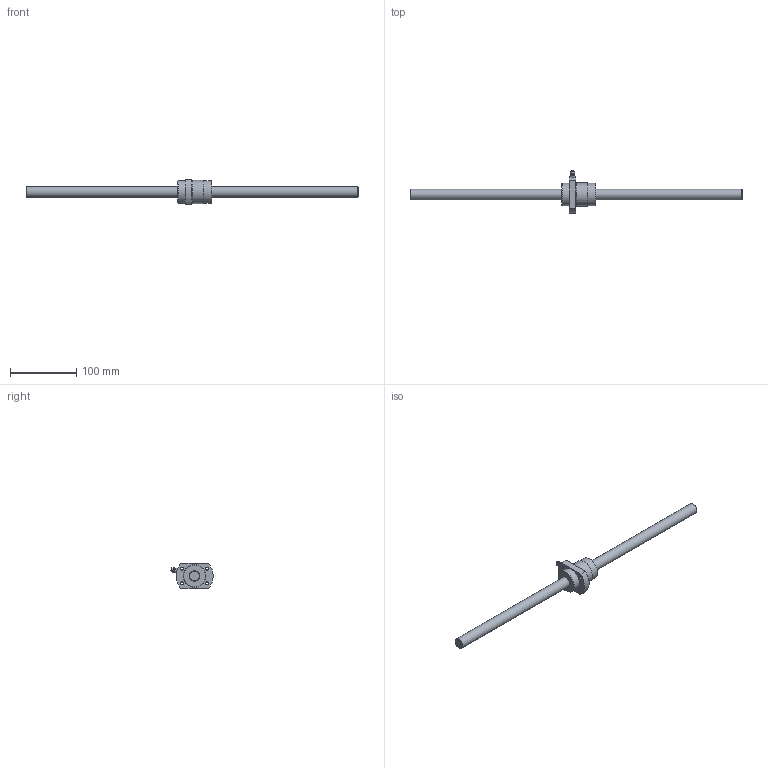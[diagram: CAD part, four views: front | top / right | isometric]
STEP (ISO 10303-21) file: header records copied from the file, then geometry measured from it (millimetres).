
FILE_DESCRIPTION((''),'2;1');
FILE_NAME('D:\製品 (図面)\カタログ用3D\ネジ関連\STEP形式\RBSW\RBSW1632-0500.stp','2010-06-02T14:46:14',('Tsuchiya'),(''),'Autodesk Inventor 10','Autodesk Inventor 10','');
FILE_SCHEMA(('AUTOMOTIVE_DESIGN { 1 0 10303 214 1 1 1 1 }'));
Length unit declared in the file: millimetre
Products named in the file (3): RBSW1632-0500; RBSW1632-05001; RBSW1632-05002
Assembly tree (2 placements, depth 2):
  RBSW1632-0500
    RBSW1632-05001
    RBSW1632-05002
Bounding box: 500 x 63.56 x 38 mm (x, y, z)
Volume: 147794.3 mm3; surface area: 38305.6 mm2
Topology: 3 solids, 3 shells, 35 faces, 75 edges, 48 vertices
Faces by surface type: plane 11, cylinder 8, cone 7, bspline 6, sphere 3
Full cylindrical faces by diameter (mm): 7 x1, 16 x2, 34.2 x2, 35 x1
Entity records: 1006 total; most frequent: CARTESIAN_POINT 297, DIRECTION 146, ORIENTED_EDGE 90, AXIS2_PLACEMENT_3D 68, EDGE_LOOP 68, EDGE_CURVE 45, VERTEX_POINT 39, CIRCLE 35
